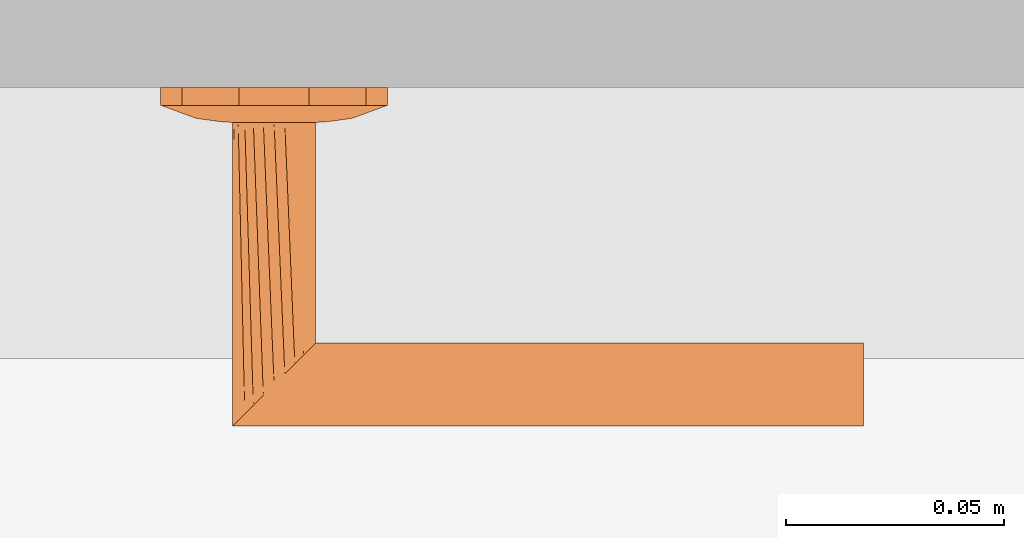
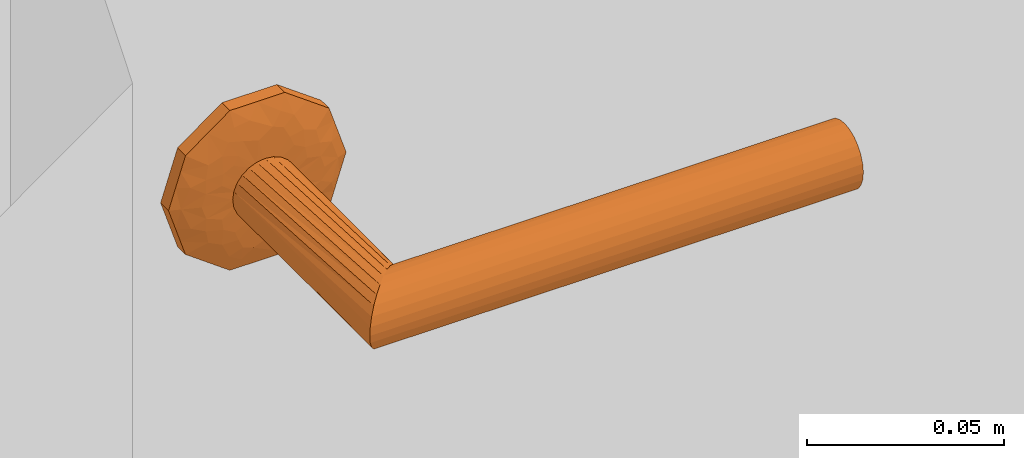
# One storey, part 113 of 125: 1 proxy.
"""IFC2X3 building model written with IfcOpenShell, lengths in millimetres."""

from ifc_helpers import new_model, entity, si_unit, converted_unit, direction, frame, origin, place, context, subcontext, project, spatial, faceted_brep, source, transform, mapped, material, type_object, type_shapes, element, save


model = new_model("IFC2X3")

# Units and contexts
model_context = context("Model", 3, precision=0.01, world=origin(), true_north=direction((6.123233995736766e-17, 1.0)))
plan_context = context("Plan", 3, precision=0.01, world=origin(), true_north=direction((6.123233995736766e-17, 1.0)))
body_context = subcontext(model_context, "Body", "Model", "MODEL_VIEW")
ifc_project = project(units=[si_unit("LENGTHUNIT", "METRE", prefix="MILLI"), converted_unit("PLANEANGLEUNIT", "DEGREE", entity("IfcPlaneAngleMeasure", 0.017453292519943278), si_unit("PLANEANGLEUNIT", "RADIAN"), dimensions=[0, 0, 0, 0, 0, 0, 0]), si_unit("AREAUNIT", "SQUARE_METRE")], contexts=[model_context, plan_context])

# Site, building, storey
site_placement = place(None, origin())
site = spatial("IfcSite", under=ifc_project, at=site_placement, Name="Default", CompositionType="ELEMENT")
building_placement = place(site_placement, origin())
building = spatial("IfcBuilding", under=site, at=building_placement, CompositionType="ELEMENT")
storey_placement = place(building_placement, frame((0.0, 0.0, 3125.0)))
storey = spatial("IfcBuildingStorey", under=building, at=storey_placement, Name="2K", CompositionType="ELEMENT", Elevation=3125.0)

# Proxy
ifc_material = material(Name="<Unnamed>")
building_element_proxy_type = type_object("IfcBuildingElementProxyType", Name="Door-handle_Lever_ABLOY_INOXI_3-19ss-002_RT:Default", PredefinedType="NOTDEFINED", material=ifc_material)
shared_shape = source(origin(), body_context, "Body", "Brep", [
    faceted_brep([(0.0, 0.0, 0.0), (8.034441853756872, 24.72746942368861, 0.0), (14.534441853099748, 20.00494299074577, 0.0), (21.034441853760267, 15.282416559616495, 0.0), (23.51722092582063, 7.641208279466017, 0.0), (26.0, 0.0, 0.0), (23.517220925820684, -7.641208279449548, 0.0), (0.0, 24.72746942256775, 0.0), (-8.034441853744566, 24.727469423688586, 0.0), (-14.534441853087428, 20.00494299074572, 0.0), (-21.03444185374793, 15.282416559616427, 0.0), (-23.517220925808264, 7.641208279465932, 0.0), (-26.0, 0.0, 0.0), (21.034441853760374, -15.282416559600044, 0.0), (14.534441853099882, -20.004942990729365, 0.0), (8.034441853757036, -24.72746942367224, 0.0), (0.0, -24.72746942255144, 0.0), (-23.517220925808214, -7.641208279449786, 0.0), (-21.034441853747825, -15.282416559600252, 0.0), (-14.53444185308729, -20.004942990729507, 0.0), (-8.0344418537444, -24.72746942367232, 0.0), (0.0, 0.0, 8.0), (9.500000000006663, 0.0, 8.0), (8.312500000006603, 2.056810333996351, 8.0), (7.125000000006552, 4.113620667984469, 8.0), (5.937500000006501, 6.170431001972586, 8.0), (4.7500000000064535, 8.227241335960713, 8.0), (2.375000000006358, 8.2272413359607, 8.0), (0.0, 8.227241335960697, 8.0), (-2.3749999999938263, 8.227241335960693, 8.0), (-4.749999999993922, 8.227241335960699, 8.0), (-5.937499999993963, 6.1704310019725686, 8.0), (-7.124999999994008, 4.1136206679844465, 8.0), (-8.312499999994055, 2.0568103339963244, 8.0), (-9.499999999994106, 0.0, 8.0), (-8.31249999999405, -2.0568103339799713, 8.0), (8.312500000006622, -2.0568103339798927, 8.0), (7.125000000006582, -4.113620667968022, 8.0), (5.937500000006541, -6.170431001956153, 8.0), (4.750000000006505, -8.227241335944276, 8.0), (-7.124999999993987, -4.113620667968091, 8.0), (-5.9374999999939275, -6.17043100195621, 8.0), (-4.74999999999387, -8.227241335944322, 8.0), (-2.374999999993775, -8.227241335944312, 8.0), (0.0, -8.227241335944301, 8.0), (2.3750000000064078, -8.227241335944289, 8.0), (-20.6430713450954, 6.292822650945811, 5.929480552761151), (-16.663919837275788, 7.932665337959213, 6.877259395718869), (-22.48876527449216, 10.806469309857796, 4.030771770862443), (-16.764060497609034, 3.8202578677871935, 7.1747985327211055), (-12.504579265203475, 5.179566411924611, 7.774932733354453), (-11.979136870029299, 13.678312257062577, 6.945778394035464), (-11.963426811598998, 8.62529041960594, 7.618343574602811), (-9.07172672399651, 10.31160661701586, 7.7520782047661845), (8.03444185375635, 24.727469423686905, 4.030771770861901), (0.0, 24.72746942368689, 4.030771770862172), (5.758554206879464, 20.96753300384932, 5.871476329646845), (20.643071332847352, 6.292822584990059, 5.929480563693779), (22.488765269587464, 10.806469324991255, 4.03077177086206), (16.66391982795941, 7.9326653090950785, 6.877259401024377), (9.49943163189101, 18.6436835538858, 6.154325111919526), (14.534441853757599, 20.004942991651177, 4.030771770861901), (-14.534441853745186, 20.00494299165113, 4.030771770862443), (-21.034441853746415, 15.282416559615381, 4.030771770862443), (-15.783149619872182, 11.991003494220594, 6.50080018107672), (-23.943088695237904, 6.330522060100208, 4.030771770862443), (-23.012042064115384, 0.0, 5.135401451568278), (12.50457924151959, 5.179566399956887, 7.774932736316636), (11.963426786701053, 8.625290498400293, 7.618343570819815), (16.76406041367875, 3.820257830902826, 7.17479855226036), (15.783149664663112, 11.991003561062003, 6.50080015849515), (23.01204200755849, 0.0, 5.135401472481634), (17.9853516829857, 0.0, 6.993737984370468), (8.661516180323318, 10.478936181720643, 7.768126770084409), (-3.3573143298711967, 21.197247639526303, 5.971427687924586), (-8.03444185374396, 24.727469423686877, 4.030771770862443), (-7.711266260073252, 12.76034452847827, 7.594456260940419), (-5.97325794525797, 16.43013906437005, 7.110979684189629), (-9.94191586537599, 17.061976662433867, 6.522757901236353), (11.979136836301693, 13.678312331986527, 6.945778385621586), (5.953298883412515, 16.50608604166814, 7.096344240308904), (7.511307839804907, 13.358932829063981, 7.529187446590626), (-1.5654593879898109, 15.307443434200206, 7.519134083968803), (-7.784980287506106, 20.476295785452, 5.812837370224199), (2.8135289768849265, 17.763922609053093, 6.993737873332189), (-17.985351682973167, 0.0, 6.993737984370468), (-26.0, 0.0, 4.030771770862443), (-23.51722092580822, 7.641208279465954, 4.030771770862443), (26.0, 0.0, 4.030771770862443), (24.308823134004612, 5.204907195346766, 4.030771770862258), (23.943088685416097, 6.330522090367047, 4.030771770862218), (21.03444185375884, 15.282416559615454, 4.030771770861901), (22.617646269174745, 10.40981439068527, 4.030771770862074), (20.6430713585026, -6.292822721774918, 5.929480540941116), (16.663919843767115, -7.932665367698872, 6.877259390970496), (22.48876527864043, -10.8064692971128, 4.030771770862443), (16.764060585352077, -3.8202579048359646, 7.174798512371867), (12.504579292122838, -5.17956641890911, 7.774932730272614), (11.979136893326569, -13.678312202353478, 6.9457784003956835), (11.963426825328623, -8.62529034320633, 7.618343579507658), (9.071726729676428, -10.311606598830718, 7.752078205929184), (-8.03444185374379, -24.727469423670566, 4.030771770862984), (0.0, -24.727469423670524, 4.030771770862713), (-5.758554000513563, -20.96753314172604, 5.8714763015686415), (-20.643071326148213, -6.292822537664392, 5.929480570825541), (-22.488765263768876, -10.80646934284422, 4.030771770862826), (-16.66391981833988, -7.932665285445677, 6.877259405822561), (-9.499431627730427, -18.643683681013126, 6.154325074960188), (-14.534441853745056, -20.004942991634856, 4.030771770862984), (14.53444185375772, -20.00494299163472, 4.030771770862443), (21.034441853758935, -15.282416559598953, 4.030771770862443), (15.783149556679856, -11.991003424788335, 6.5008002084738), (23.943088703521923, -6.330522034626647, 4.030771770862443), (-12.504579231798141, -5.17956638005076, 7.77493273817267), (-11.963426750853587, -8.625290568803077, 7.618343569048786), (-16.764060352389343, -3.8202577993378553, 7.174798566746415), (-15.783149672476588, -11.991003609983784, 6.500800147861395), (-8.661516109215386, -10.478936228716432, 7.768126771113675), (3.3573144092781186, -21.197247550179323, 5.971427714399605), (8.034441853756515, -24.727469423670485, 4.030771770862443), (7.711266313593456, -12.760344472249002, 7.5944562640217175), (5.9732581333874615, -16.430139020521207, 7.110979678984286), (9.941915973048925, -17.06197655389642, 6.522757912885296), (-11.979136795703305, -13.678312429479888, 6.945778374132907), (-5.953298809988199, -16.506086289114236, 7.096344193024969), (-7.511307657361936, -13.358932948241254, 7.5291874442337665), (1.5654596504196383, -15.3074431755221, 7.519134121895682), (7.784980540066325, -20.476295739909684, 5.812837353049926), (-2.81352881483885, -17.76392263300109, 6.993737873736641), (23.517220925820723, -7.64120827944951, 4.030771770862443), (-24.308823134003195, -5.20490719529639, 4.030771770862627), (-23.943088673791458, -6.330522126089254, 4.030771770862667), (-21.034441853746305, -15.282416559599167, 4.030771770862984), (-22.617646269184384, -10.409814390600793, 4.0307717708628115)], [[[0, 1, 2]], [[0, 2, 3]], [[0, 3, 4]], [[0, 4, 5]], [[0, 5, 6]], [[0, 7, 1]], [[0, 8, 7]], [[0, 9, 8]], [[0, 10, 9]], [[0, 11, 10]], [[0, 12, 11]], [[0, 6, 13]], [[0, 13, 14]], [[0, 14, 15]], [[0, 15, 16]], [[0, 17, 12]], [[0, 18, 17]], [[0, 19, 18]], [[0, 20, 19]], [[0, 16, 20]], [[21, 22, 23]], [[21, 23, 24]], [[21, 24, 25]], [[21, 25, 26]], [[21, 26, 27]], [[21, 27, 28]], [[21, 28, 29]], [[21, 29, 30]], [[21, 30, 31]], [[21, 31, 32]], [[21, 32, 33]], [[21, 33, 34]], [[21, 34, 35]], [[21, 36, 22]], [[21, 37, 36]], [[21, 38, 37]], [[21, 39, 38]], [[21, 35, 40]], [[21, 40, 41]], [[21, 41, 42]], [[21, 42, 43]], [[21, 43, 44]], [[21, 44, 45]], [[21, 45, 39]], [[46, 47, 48]], [[49, 50, 47]], [[33, 32, 50]], [[51, 52, 53]], [[32, 52, 50]], [[49, 47, 46]], [[54, 55, 56]], [[57, 58, 59]], [[60, 61, 54]], [[62, 63, 64]], [[46, 65, 66]], [[67, 59, 68]], [[23, 69, 67]], [[70, 68, 59]], [[23, 22, 69]], [[52, 51, 64]], [[71, 69, 72]], [[73, 25, 68]], [[74, 55, 75]], [[76, 77, 78]], [[70, 61, 79]], [[71, 57, 69]], [[60, 80, 81]], [[51, 76, 78]], [[77, 29, 82]], [[26, 81, 27]], [[74, 83, 77]], [[77, 82, 74]], [[74, 84, 55]], [[34, 49, 85]], [[23, 67, 24]], [[28, 84, 82]], [[74, 82, 84]], [[29, 76, 30]], [[29, 28, 82]], [[49, 34, 33]], [[47, 50, 52]], [[47, 52, 64]], [[50, 49, 33]], [[53, 76, 51]], [[52, 32, 31]], [[49, 66, 85]], [[86, 66, 65]], [[24, 67, 68]], [[83, 78, 77]], [[49, 46, 66]], [[48, 64, 63]], [[46, 48, 87, 65]], [[48, 47, 64]], [[59, 67, 69]], [[26, 73, 81]], [[79, 68, 70]], [[25, 24, 68]], [[71, 88, 89, 90]], [[22, 72, 69]], [[59, 69, 57]], [[79, 61, 60]], [[51, 62, 64]], [[70, 58, 91]], [[90, 57, 71]], [[58, 70, 59]], [[57, 90, 92]], [[79, 60, 81]], [[61, 70, 91]], [[56, 80, 60]], [[79, 81, 73]], [[80, 84, 27]], [[79, 73, 68]], [[27, 84, 28]], [[25, 73, 26]], [[77, 76, 29]], [[31, 30, 53]], [[78, 62, 51]], [[75, 62, 83]], [[78, 83, 62]], [[75, 83, 74]], [[76, 53, 30]], [[31, 53, 52]], [[81, 80, 27]], [[84, 80, 56]], [[84, 56, 55]], [[54, 56, 60]], [[93, 94, 95]], [[96, 97, 94]], [[36, 37, 97]], [[98, 99, 100]], [[37, 99, 97]], [[96, 94, 93]], [[101, 102, 103]], [[104, 105, 106]], [[107, 108, 101]], [[109, 110, 111]], [[93, 112, 71]], [[113, 106, 114]], [[35, 115, 113]], [[116, 114, 106]], [[35, 34, 115]], [[99, 98, 111]], [[66, 115, 85]], [[117, 41, 114]], [[118, 102, 119]], [[120, 121, 122]], [[116, 108, 123]], [[66, 104, 115]], [[107, 124, 125]], [[120, 45, 121]], [[121, 45, 126]], [[42, 125, 43]], [[118, 127, 121]], [[121, 126, 118]], [[118, 128, 102]], [[22, 96, 72]], [[35, 113, 40]], [[44, 128, 126]], [[118, 126, 128]], [[45, 120, 39]], [[45, 44, 126]], [[96, 22, 36]], [[94, 97, 99]], [[94, 99, 111]], [[97, 96, 36]], [[100, 120, 98]], [[99, 37, 38]], [[96, 71, 72]], [[88, 71, 112]], [[40, 113, 114]], [[127, 122, 121]], [[96, 93, 71]], [[95, 111, 110]], [[93, 95, 129, 112]], [[95, 94, 111]], [[106, 113, 115]], [[42, 117, 125]], [[123, 114, 116]], [[41, 40, 114]], [[66, 86, 130, 131]], [[34, 85, 115]], [[106, 115, 104]], [[123, 108, 107]], [[98, 109, 111]], [[116, 105, 132]], [[131, 104, 66]], [[105, 116, 106]], [[104, 131, 133]], [[123, 107, 125]], [[108, 116, 132]], [[103, 124, 107]], [[123, 125, 117]], [[124, 128, 43]], [[123, 117, 114]], [[43, 128, 44]], [[41, 117, 42]], [[38, 39, 100]], [[98, 120, 122]], [[122, 109, 98]], [[119, 109, 127]], [[122, 127, 109]], [[119, 127, 118]], [[120, 100, 39]], [[38, 100, 99]], [[125, 124, 43]], [[128, 124, 103]], [[128, 103, 102]], [[101, 103, 107]], [[9, 10, 63, 62, 75, 8]], [[11, 12, 86, 65, 87, 48, 63, 10]], [[4, 3, 92, 90, 89, 88, 5]], [[3, 91, 58]], [[55, 54, 1, 7, 8, 75]], [[3, 2, 1, 54, 61, 91]], [[13, 6, 5, 88, 112, 129, 95, 110]], [[119, 15, 14, 13, 110, 109]], [[17, 18, 133, 131, 130, 86, 12]], [[18, 132, 105]], [[102, 101, 20, 16, 15, 119]], [[18, 19, 20, 101, 108, 132]], [[57, 92, 58]], [[104, 133, 105]], [[3, 58, 92]], [[18, 105, 133]]]),
    faceted_brep([(0.0, 9.499999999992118, 8.0), (2.4587809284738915, 9.176295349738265, 8.0), (4.7499999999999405, 8.22724133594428, 8.0), (6.717514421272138, 6.7175144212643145, 8.0), (8.227241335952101, 4.749999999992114, 8.0), (9.17629534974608, 2.458780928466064, 8.0), (9.499999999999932, 0.0, 8.0), (9.17629534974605, -2.458780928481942, 8.0), (8.22724133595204, -4.75000000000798, 8.0), (6.717514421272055, -6.717514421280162, 8.0), (4.7499999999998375, -8.227241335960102, 8.0), (2.4587809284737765, -9.176295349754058, 8.0), (0.0, -9.500000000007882, 8.0), (-2.4587809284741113, -9.176295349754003, 8.0), (-4.750000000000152, -8.227241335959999, 8.0), (-6.717514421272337, -6.717514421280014, 8.0), (-8.227241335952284, -4.750000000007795, 8.0), (-9.176295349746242, -2.458780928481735, 8.0), (-9.500000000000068, 0.0, 8.0), (-9.176295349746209, 2.4587809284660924, 8.0), (-8.227241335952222, 4.74999999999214, 8.0), (-6.717514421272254, 6.717514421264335, 8.0), (-4.7500000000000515, 8.227241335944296, 8.0), (-2.4587809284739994, 9.176295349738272, 8.0), (-6.717514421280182, -6.7175144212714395, 61.282485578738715), (-8.227241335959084, -4.7499999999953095, 59.772758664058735), (-9.176295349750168, -2.458780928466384, 58.82370465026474), (-2.4587809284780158, -9.176295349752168, 65.54121907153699), (-4.750000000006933, -8.227241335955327, 63.25000000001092), (-9.500000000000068, 0.0, 58.50000000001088), (0.0, -9.50000000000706, 68.0), (2.4587809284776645, -9.17629534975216, 70.45878092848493), (4.750000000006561, -8.227241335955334, 72.75000000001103), (6.717514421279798, -6.7175144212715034, 74.71751442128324), (9.17629534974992, -2.458780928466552, 77.17629534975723), (8.22724133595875, -4.749999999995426, 76.22724133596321), (9.499999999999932, 0.0, 77.50000000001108), (9.176295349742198, 2.4587809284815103, 77.1762953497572), (8.227241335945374, 4.750000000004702, 76.22724133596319), (4.749999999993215, 8.227241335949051, 72.75000000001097), (6.7175144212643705, 6.717514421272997, 74.7175144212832), (2.4587809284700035, 9.17629534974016, 70.45878092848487), (-2.4587809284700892, 9.176295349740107, 65.54121907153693), (0.0, 9.49999999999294, 68.0), (-6.717514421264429, 6.717514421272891, 61.282485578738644), (-4.749999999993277, 8.227241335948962, 63.250000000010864), (-9.176295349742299, 2.458780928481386, 58.8237046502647), (-8.227241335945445, 4.750000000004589, 59.77275866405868), (-135.0, 9.500000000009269, 68.0), (-135.0, 9.176295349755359, 65.54121907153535), (-135.0, 8.227241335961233, 63.25000000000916), (-135.0, 6.7175144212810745, 61.28248557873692), (-135.0, 4.750000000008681, 59.772758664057), (-135.0, 2.458780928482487, 58.82370465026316), (-135.0, 0.0, 58.50000000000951), (-135.0, -2.458780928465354, 58.823704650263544), (-135.0, -4.749999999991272, 59.772758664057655), (-135.0, -6.717514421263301, 61.28248557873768), (-135.0, -8.227241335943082, 63.250000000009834), (-135.0, -9.17629534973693, 65.54121907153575), (-135.0, -9.499999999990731, 68.0), (-135.0, -9.17629534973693, 70.45878092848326), (-135.0, -8.227241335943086, 72.75000000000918), (-135.0, -6.717514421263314, 74.71751442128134), (-135.0, -4.749999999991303, 76.22724133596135), (-135.0, -2.4587809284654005, 77.17629534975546), (-135.0, 0.0, 77.5000000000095), (-135.0, 2.4587809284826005, 77.17629534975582), (-135.0, 4.750000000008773, 76.22724133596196), (-135.0, 6.717514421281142, 74.71751442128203), (-135.0, 8.227241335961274, 72.75000000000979), (-135.0, 9.176295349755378, 70.4587809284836)], [[[0, 1, 2, 3, 4, 5, 6, 7, 8, 9, 10, 11, 12, 13, 14, 15, 16, 17, 18, 19, 20, 21, 22, 23]], [[15, 24, 25, 16]], [[16, 25, 26, 17]], [[27, 28, 12]], [[12, 28, 13]], [[13, 28, 24]], [[18, 17, 26, 29]], [[24, 15, 14]], [[14, 13, 24]], [[11, 30, 27]], [[31, 9, 32]], [[32, 8, 33]], [[34, 35, 7]], [[7, 35, 33]], [[36, 34, 7, 6]], [[30, 11, 10]], [[11, 27, 12]], [[33, 8, 7]], [[8, 32, 9]], [[31, 10, 9]], [[10, 31, 30]], [[37, 36, 6, 5]], [[37, 5, 38]], [[39, 40, 4]], [[5, 40, 38]], [[41, 39, 3]], [[5, 4, 40]], [[42, 43, 1]], [[2, 1, 43]], [[2, 41, 3]], [[39, 4, 3]], [[2, 43, 41]], [[23, 44, 45]], [[0, 45, 42]], [[19, 18, 29, 46]], [[20, 19, 46, 47]], [[21, 20, 47, 44]], [[23, 22, 44]], [[45, 0, 23]], [[44, 22, 21]], [[1, 0, 42]], [[48, 49, 50, 51, 52, 53, 54, 55, 56, 57, 58, 59, 60, 61, 62, 63, 64, 65, 66, 67, 68, 69, 70, 71]], [[26, 25, 56, 55]], [[29, 26, 55, 54]], [[28, 27, 59, 58]], [[24, 28, 58, 57]], [[25, 24, 57, 56]], [[27, 30, 60, 59]], [[32, 33, 63, 62]], [[31, 32, 62, 61]], [[34, 36, 66, 65]], [[35, 34, 65, 64]], [[33, 35, 64, 63]], [[61, 60, 30, 31]], [[38, 68, 67, 37]], [[37, 67, 66, 36]], [[41, 71, 70, 39]], [[39, 70, 69, 40]], [[40, 69, 68, 38]], [[48, 71, 41, 43]], [[44, 51, 50, 45]], [[45, 50, 49, 42]], [[29, 54, 53, 46]], [[46, 53, 52, 47]], [[47, 52, 51, 44]], [[42, 49, 48, 43]]]),
])
type_shapes(building_element_proxy_type, [shared_shape])
proxy_placement = place(storey_placement, frame((5828.0, 11792.0, 1000.0), z_axis=(0.0, -1.0, 0.0), x_axis=(-1.0, 0.0, 0.0)))
element("IfcBuildingElementProxy", 1, at=proxy_placement, inside=storey, type_object=building_element_proxy_type, material=ifc_material, Name="Door-handle_Lever_ABLOY_INOXI_3-19ss-002_RT:Default", ObjectType="Door-handle_Lever_ABLOY_INOXI_3-19ss-002_RT:Default", context=body_context, shape_type="MappedRepresentation", body=[
    mapped(shared_shape, transform((0.0, 0.0, 0.0), scale=1.0)),
])

save(model, "model.ifc")
